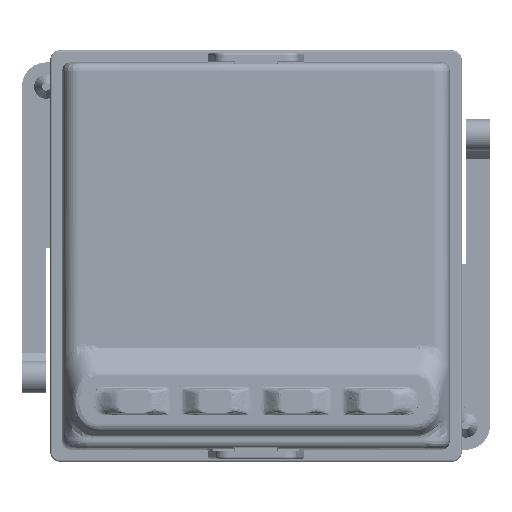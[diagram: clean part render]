
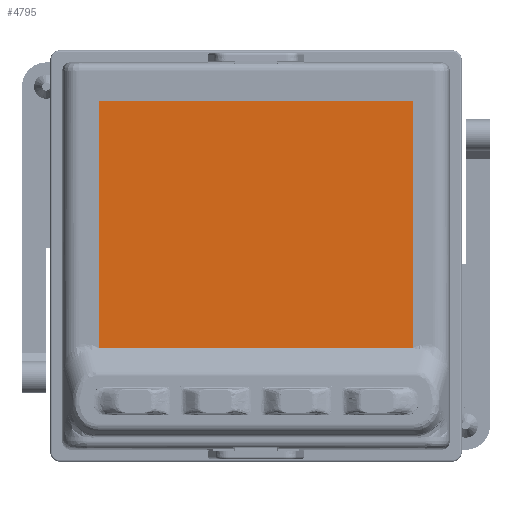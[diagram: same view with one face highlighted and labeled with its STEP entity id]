
A CAD part, top view. The second image highlights one B-rep face of the part: STEP entity #4795.
In plain terms, the highlighted planar face has unit normal (0, 0, 1).
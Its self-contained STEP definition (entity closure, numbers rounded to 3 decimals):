
#1046=DIRECTION('',(0.,1.,0.));
#1047=VECTOR('',#1046,31.496);
#1048=CARTESIAN_POINT('',(-19.448,-12.248,
4.3));
#1049=LINE('',#1048,#1047);
#1053=DIRECTION('',(0.,-1.,0.));
#1054=VECTOR('',#1053,31.496);
#1055=CARTESIAN_POINT('',(19.448,19.248,4.3));
#1056=LINE('',#1055,#1054);
#1060=CARTESIAN_POINT('',(19.448,-12.248,4.3));
#1061=CARTESIAN_POINT('',(19.448,-12.153,4.3));
#1062=CARTESIAN_POINT('',(19.426,-12.031,4.3));
#1063=CARTESIAN_POINT('',(19.355,-11.911,4.3));
#1064=CARTESIAN_POINT('',(19.304,-11.866,4.3));
#1065=CARTESIAN_POINT('',(19.256,-11.866,4.3));
#1070=DIRECTION('',(-1.,0.,0.));
#1071=VECTOR('',#1070,38.513);
#1072=CARTESIAN_POINT('',(19.256,-11.866,4.3));
#1073=LINE('',#1072,#1071);
#1077=CARTESIAN_POINT('',(-19.256,-11.866,4.3));
#1078=CARTESIAN_POINT('',(-19.304,-11.866,4.3));
#1079=CARTESIAN_POINT('',(-19.355,-11.911,4.3));
#1080=CARTESIAN_POINT('',(-19.426,-12.031,4.3));
#1081=CARTESIAN_POINT('',(-19.448,-12.153,4.3));
#1082=CARTESIAN_POINT('',(-19.448,-12.248,4.3));
#1094=DIRECTION('',(-1.,0.,0.));
#1095=VECTOR('',#1094,38.895);
#1096=CARTESIAN_POINT('',(19.448,19.248,4.3));
#1097=LINE('',#1096,#1095);
#3577=CARTESIAN_POINT('',(-19.448,-12.248,
4.3));
#3579=VERTEX_POINT('',#3577);
#3581=CARTESIAN_POINT('',(-19.256,-11.866,4.3));
#3582=VERTEX_POINT('',#3581);
#3584=CARTESIAN_POINT('',(19.256,-11.866,4.3));
#3585=VERTEX_POINT('',#3584);
#3586=VERTEX_POINT('',#1060);
#3595=CARTESIAN_POINT('',(-19.448,19.248,4.3));
#3596=VERTEX_POINT('',#3595);
#3597=CARTESIAN_POINT('',(19.448,19.248,4.3));
#3598=VERTEX_POINT('',#3597);
#4781=CARTESIAN_POINT('',(0.,3.5,4.3));
#4782=DIRECTION('',(0.,0.,1.));
#4783=DIRECTION('',(0.,1.,0.));
#4784=AXIS2_PLACEMENT_3D('',#4781,#4782,#4783);
#4785=PLANE('',#4784);
#4786=ORIENTED_EDGE('',*,*,#4659,.T.);
#4788=ORIENTED_EDGE('',*,*,#4787,.F.);
#4789=ORIENTED_EDGE('',*,*,#4715,.T.);
#4790=ORIENTED_EDGE('',*,*,#4701,.T.);
#4791=ORIENTED_EDGE('',*,*,#4687,.T.);
#4792=ORIENTED_EDGE('',*,*,#4673,.T.);
#4793=EDGE_LOOP('',(#4786,#4788,#4789,#4790,#4791,#4792));
#4794=FACE_OUTER_BOUND('',#4793,.F.);
#1066=B_SPLINE_CURVE_WITH_KNOTS('',3,(#1060,#1061,#1062,#1063,#1064,#1065),
.UNSPECIFIED.,.F.,.F.,(4,1,1,4),(0.,0.5,0.75,1.),.UNSPECIFIED.);
#1083=B_SPLINE_CURVE_WITH_KNOTS('',3,(#1077,#1078,#1079,#1080,#1081,#1082),
.UNSPECIFIED.,.F.,.F.,(4,1,1,4),(0.,0.25,0.5,1.),.UNSPECIFIED.);
#4659=EDGE_CURVE('',#3579,#3596,#1049,.T.);
#4673=EDGE_CURVE('',#3582,#3579,#1083,.T.);
#4687=EDGE_CURVE('',#3585,#3582,#1073,.T.);
#4701=EDGE_CURVE('',#3586,#3585,#1066,.T.);
#4715=EDGE_CURVE('',#3598,#3586,#1056,.T.);
#4787=EDGE_CURVE('',#3598,#3596,#1097,.T.);
#4795=ADVANCED_FACE('',(#4794),#4785,.T.);
